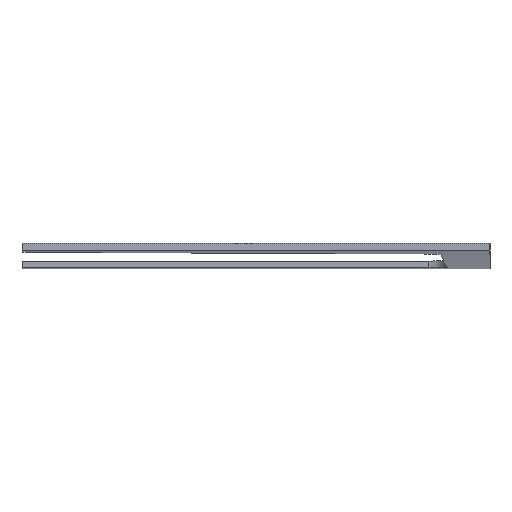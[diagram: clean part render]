
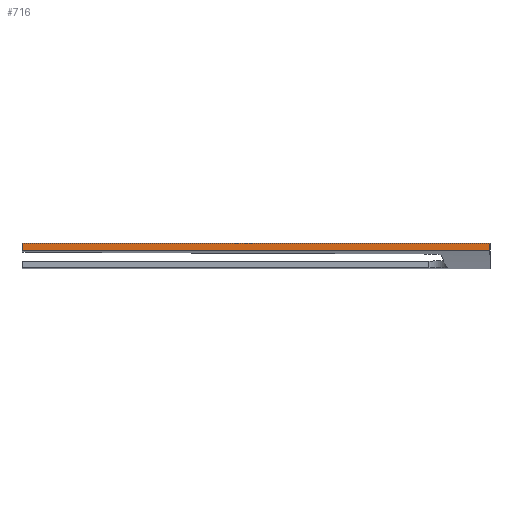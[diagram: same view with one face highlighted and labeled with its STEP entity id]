
A CAD part, top view. The second image highlights one B-rep face of the part: STEP entity #716.
In plain terms, the highlighted planar face has unit normal (0, 0, 1).
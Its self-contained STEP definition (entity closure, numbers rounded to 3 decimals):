
#21 = EDGE_CURVE('',#22,#24,#26,.T.);
#22 = VERTEX_POINT('',#23);
#23 = CARTESIAN_POINT('',(310.,-178.456,418.));
#24 = VERTEX_POINT('',#25);
#25 = CARTESIAN_POINT('',(110.,-178.456,418.));
#26 = SURFACE_CURVE('',#27,(#33,#79),.PCURVE_S1.);
#27 = B_SPLINE_CURVE_WITH_KNOTS('',4,(#28,#29,#30,#31,#32),
  .UNSPECIFIED.,.F.,.F.,(5,5),(0.,1.),.PIECEWISE_BEZIER_KNOTS.);
#28 = CARTESIAN_POINT('',(310.705,-178.456,418.));
#29 = CARTESIAN_POINT('',(249.638,-178.456,418.));
#30 = CARTESIAN_POINT('',(188.57,-178.456,418.));
#31 = CARTESIAN_POINT('',(127.503,-178.456,418.));
#32 = CARTESIAN_POINT('',(66.436,-178.456,418.));
#33 = PCURVE('',#34,#71);
#34 = B_SPLINE_SURFACE_WITH_KNOTS('',8,3,(
    (#35,#36,#37,#38)
    ,(#39,#40,#41,#42)
    ,(#43,#44,#45,#46)
    ,(#47,#48,#49,#50)
    ,(#51,#52,#53,#54)
    ,(#55,#56,#57,#58)
    ,(#59,#60,#61,#62)
    ,(#63,#64,#65,#66)
    ,(#67,#68,#69,#70
    )),.UNSPECIFIED.,.F.,.F.,.F.,(9,9),(4,4),(0.,1.),(0.,1.),
  .PIECEWISE_BEZIER_KNOTS.);
#35 = CARTESIAN_POINT('',(39.,-188.,100.));
#36 = CARTESIAN_POINT('',(19.839,-186.258,
    217.091));
#37 = CARTESIAN_POINT('',(37.234,-185.546,336.546
    ));
#38 = CARTESIAN_POINT('',(77.,-176.,450.));
#39 = CARTESIAN_POINT('',(75.25,-188.,100.));
#40 = CARTESIAN_POINT('',(58.988,-186.258,
    217.091));
#41 = CARTESIAN_POINT('',(73.424,-185.546,
    336.546));
#42 = CARTESIAN_POINT('',(105.5,-176.,450.));
#43 = CARTESIAN_POINT('',(111.5,-188.,100.));
#44 = CARTESIAN_POINT('',(98.138,-186.258,
    217.091));
#45 = CARTESIAN_POINT('',(109.614,-185.546,
    336.546));
#46 = CARTESIAN_POINT('',(134.,-176.,450.));
#47 = CARTESIAN_POINT('',(147.75,-188.,100.));
#48 = CARTESIAN_POINT('',(137.287,-186.258,
    217.091));
#49 = CARTESIAN_POINT('',(145.804,-185.546,
    336.546));
#50 = CARTESIAN_POINT('',(162.5,-176.,450.));
#51 = CARTESIAN_POINT('',(184.,-188.,100.));
#52 = CARTESIAN_POINT('',(176.437,-186.258,
    217.091));
#53 = CARTESIAN_POINT('',(181.994,-185.546,
    336.546));
#54 = CARTESIAN_POINT('',(191.,-176.,450.));
#55 = CARTESIAN_POINT('',(220.25,-188.,100.));
#56 = CARTESIAN_POINT('',(215.586,-186.258,
    217.091));
#57 = CARTESIAN_POINT('',(218.185,-185.546,336.546
    ));
#58 = CARTESIAN_POINT('',(219.5,-176.,450.));
#59 = CARTESIAN_POINT('',(256.5,-188.,100.));
#60 = CARTESIAN_POINT('',(254.736,-186.258,
    217.091));
#61 = CARTESIAN_POINT('',(254.375,-185.546,
    336.546));
#62 = CARTESIAN_POINT('',(248.,-176.,450.));
#63 = CARTESIAN_POINT('',(292.75,-188.,100.));
#64 = CARTESIAN_POINT('',(293.885,-186.258,
    217.091));
#65 = CARTESIAN_POINT('',(290.565,-185.546,
    336.546));
#66 = CARTESIAN_POINT('',(276.5,-176.,450.));
#67 = CARTESIAN_POINT('',(329.,-188.,100.));
#68 = CARTESIAN_POINT('',(333.035,-186.258,
    217.091));
#69 = CARTESIAN_POINT('',(326.755,-185.546,
    336.546));
#70 = CARTESIAN_POINT('',(305.,-176.,450.));
#71 = DEFINITIONAL_REPRESENTATION('',(#72),#78);
#72 = B_SPLINE_CURVE_WITH_KNOTS('',4,(#73,#74,#75,#76,#77),
  .UNSPECIFIED.,.F.,.F.,(5,5),(0.,1.),.PIECEWISE_BEZIER_KNOTS.);
#73 = CARTESIAN_POINT('',(1.,0.906));
#74 = CARTESIAN_POINT('',(0.75,0.906));
#75 = CARTESIAN_POINT('',(0.5,0.906));
#76 = CARTESIAN_POINT('',(0.25,0.906));
#77 = CARTESIAN_POINT('',(0.,0.906));
#78 = ( GEOMETRIC_REPRESENTATION_CONTEXT(2) 
PARAMETRIC_REPRESENTATION_CONTEXT() REPRESENTATION_CONTEXT('2D SPACE',''
  ) );
#79 = PCURVE('',#80,#85);
#80 = PLANE('',#81);
#81 = AXIS2_PLACEMENT_3D('',#82,#83,#84);
#82 = CARTESIAN_POINT('',(-100.,-250.,418.));
#83 = DIRECTION('',(0.,0.,1.));
#84 = DIRECTION('',(1.,0.,-0.));
#85 = DEFINITIONAL_REPRESENTATION('',(#86),#92);
#86 = B_SPLINE_CURVE_WITH_KNOTS('',4,(#87,#88,#89,#90,#91),
  .UNSPECIFIED.,.F.,.F.,(5,5),(0.,1.),.PIECEWISE_BEZIER_KNOTS.);
#87 = CARTESIAN_POINT('',(410.705,71.544));
#88 = CARTESIAN_POINT('',(349.638,71.544));
#89 = CARTESIAN_POINT('',(288.57,71.544));
#90 = CARTESIAN_POINT('',(227.503,71.544));
#91 = CARTESIAN_POINT('',(166.436,71.544));
#92 = ( GEOMETRIC_REPRESENTATION_CONTEXT(2) 
PARAMETRIC_REPRESENTATION_CONTEXT() REPRESENTATION_CONTEXT('2D SPACE',''
  ) );
#138 = PLANE('',#139);
#139 = AXIS2_PLACEMENT_3D('',#140,#141,#142);
#140 = CARTESIAN_POINT('',(110.,-250.,235.));
#141 = DIRECTION('',(1.,0.,-0.));
#142 = DIRECTION('',(0.,0.,1.));
#666 = PLANE('',#667);
#667 = AXIS2_PLACEMENT_3D('',#668,#669,#670);
#668 = CARTESIAN_POINT('',(310.,-250.,0.));
#669 = DIRECTION('',(1.,0.,-0.));
#670 = DIRECTION('',(0.,0.,1.));
#716 = ADVANCED_FACE('',(#717),#80,.T.);
#717 = FACE_BOUND('',#718,.T.);
#718 = EDGE_LOOP('',(#719,#720,#743,#809));
#719 = ORIENTED_EDGE('',*,*,#21,.F.);
#720 = ORIENTED_EDGE('',*,*,#721,.T.);
#721 = EDGE_CURVE('',#22,#722,#724,.T.);
#722 = VERTEX_POINT('',#723);
#723 = CARTESIAN_POINT('',(310.,-175.414,418.));
#724 = SURFACE_CURVE('',#725,(#729,#736),.PCURVE_S1.);
#725 = LINE('',#726,#727);
#726 = CARTESIAN_POINT('',(310.,-250.,418.));
#727 = VECTOR('',#728,1.);
#728 = DIRECTION('',(-0.,1.,0.));
#729 = PCURVE('',#80,#730);
#730 = DEFINITIONAL_REPRESENTATION('',(#731),#735);
#731 = LINE('',#732,#733);
#732 = CARTESIAN_POINT('',(410.,0.));
#733 = VECTOR('',#734,1.);
#734 = DIRECTION('',(0.,1.));
#735 = ( GEOMETRIC_REPRESENTATION_CONTEXT(2) 
PARAMETRIC_REPRESENTATION_CONTEXT() REPRESENTATION_CONTEXT('2D SPACE',''
  ) );
#736 = PCURVE('',#666,#737);
#737 = DEFINITIONAL_REPRESENTATION('',(#738),#742);
#738 = LINE('',#739,#740);
#739 = CARTESIAN_POINT('',(418.,0.));
#740 = VECTOR('',#741,1.);
#741 = DIRECTION('',(0.,-1.));
#742 = ( GEOMETRIC_REPRESENTATION_CONTEXT(2) 
PARAMETRIC_REPRESENTATION_CONTEXT() REPRESENTATION_CONTEXT('2D SPACE',''
  ) );
#743 = ORIENTED_EDGE('',*,*,#744,.T.);
#744 = EDGE_CURVE('',#722,#745,#747,.T.);
#745 = VERTEX_POINT('',#746);
#746 = CARTESIAN_POINT('',(110.,-175.414,418.));
#747 = SURFACE_CURVE('',#748,(#754,#763),.PCURVE_S1.);
#748 = B_SPLINE_CURVE_WITH_KNOTS('',4,(#749,#750,#751,#752,#753),
  .UNSPECIFIED.,.F.,.F.,(5,5),(0.,1.),.PIECEWISE_BEZIER_KNOTS.);
#749 = CARTESIAN_POINT('',(310.609,-175.414,418.));
#750 = CARTESIAN_POINT('',(249.609,-175.414,418.));
#751 = CARTESIAN_POINT('',(188.61,-175.414,418.));
#752 = CARTESIAN_POINT('',(127.61,-175.414,418.));
#753 = CARTESIAN_POINT('',(66.611,-175.414,418.));
#754 = PCURVE('',#80,#755);
#755 = DEFINITIONAL_REPRESENTATION('',(#756),#762);
#756 = B_SPLINE_CURVE_WITH_KNOTS('',4,(#757,#758,#759,#760,#761),
  .UNSPECIFIED.,.F.,.F.,(5,5),(0.,1.),.PIECEWISE_BEZIER_KNOTS.);
#757 = CARTESIAN_POINT('',(410.609,74.586));
#758 = CARTESIAN_POINT('',(349.609,74.586));
#759 = CARTESIAN_POINT('',(288.61,74.586));
#760 = CARTESIAN_POINT('',(227.61,74.586));
#761 = CARTESIAN_POINT('',(166.611,74.586));
#762 = ( GEOMETRIC_REPRESENTATION_CONTEXT(2) 
PARAMETRIC_REPRESENTATION_CONTEXT() REPRESENTATION_CONTEXT('2D SPACE',''
  ) );
#763 = PCURVE('',#764,#801);
#764 = B_SPLINE_SURFACE_WITH_KNOTS('',8,3,(
    (#765,#766,#767,#768)
    ,(#769,#770,#771,#772)
    ,(#773,#774,#775,#776)
    ,(#777,#778,#779,#780)
    ,(#781,#782,#783,#784)
    ,(#785,#786,#787,#788)
    ,(#789,#790,#791,#792)
    ,(#793,#794,#795,#796)
    ,(#797,#798,#799,#800
    )),.UNSPECIFIED.,.F.,.F.,.F.,(9,9),(4,4),(0.,1.),(0.,1.),
  .PIECEWISE_BEZIER_KNOTS.);
#765 = CARTESIAN_POINT('',(39.,-185.,97.));
#766 = CARTESIAN_POINT('',(21.617,-182.923,213.778
    ));
#767 = CARTESIAN_POINT('',(33.714,-183.321,
    334.206));
#768 = CARTESIAN_POINT('',(77.,-173.,447.));
#769 = CARTESIAN_POINT('',(75.25,-185.,97.));
#770 = CARTESIAN_POINT('',(60.435,-182.923,
    213.778));
#771 = CARTESIAN_POINT('',(70.576,-183.321,
    334.206));
#772 = CARTESIAN_POINT('',(105.5,-173.,447.));
#773 = CARTESIAN_POINT('',(111.5,-185.,97.));
#774 = CARTESIAN_POINT('',(99.253,-182.923,
    213.778));
#775 = CARTESIAN_POINT('',(107.439,-183.321,
    334.206));
#776 = CARTESIAN_POINT('',(134.,-173.,447.));
#777 = CARTESIAN_POINT('',(147.75,-185.,97.));
#778 = CARTESIAN_POINT('',(138.071,-182.923,
    213.778));
#779 = CARTESIAN_POINT('',(144.302,-183.321,
    334.206));
#780 = CARTESIAN_POINT('',(162.5,-173.,447.));
#781 = CARTESIAN_POINT('',(184.,-185.,97.));
#782 = CARTESIAN_POINT('',(176.889,-182.923,
    213.778));
#783 = CARTESIAN_POINT('',(181.164,-183.321,
    334.206));
#784 = CARTESIAN_POINT('',(191.,-173.,447.));
#785 = CARTESIAN_POINT('',(220.25,-185.,97.));
#786 = CARTESIAN_POINT('',(215.707,-182.923,
    213.778));
#787 = CARTESIAN_POINT('',(218.027,-183.321,
    334.206));
#788 = CARTESIAN_POINT('',(219.5,-173.,447.));
#789 = CARTESIAN_POINT('',(256.5,-185.,97.));
#790 = CARTESIAN_POINT('',(254.525,-182.923,
    213.778));
#791 = CARTESIAN_POINT('',(254.889,-183.321,
    334.206));
#792 = CARTESIAN_POINT('',(248.,-173.,447.));
#793 = CARTESIAN_POINT('',(292.75,-185.,97.));
#794 = CARTESIAN_POINT('',(293.343,-182.923,
    213.778));
#795 = CARTESIAN_POINT('',(291.752,-183.321,
    334.206));
#796 = CARTESIAN_POINT('',(276.5,-173.,447.));
#797 = CARTESIAN_POINT('',(329.,-185.,97.));
#798 = CARTESIAN_POINT('',(332.161,-182.923,
    213.778));
#799 = CARTESIAN_POINT('',(328.615,-183.321,
    334.206));
#800 = CARTESIAN_POINT('',(305.,-173.,447.));
#801 = DEFINITIONAL_REPRESENTATION('',(#802),#808);
#802 = B_SPLINE_CURVE_WITH_KNOTS('',4,(#803,#804,#805,#806,#807),
  .UNSPECIFIED.,.F.,.F.,(5,5),(0.,1.),.PIECEWISE_BEZIER_KNOTS.);
#803 = CARTESIAN_POINT('',(1.,0.915));
#804 = CARTESIAN_POINT('',(0.75,0.915));
#805 = CARTESIAN_POINT('',(0.5,0.915));
#806 = CARTESIAN_POINT('',(0.25,0.915));
#807 = CARTESIAN_POINT('',(0.,0.915));
#808 = ( GEOMETRIC_REPRESENTATION_CONTEXT(2) 
PARAMETRIC_REPRESENTATION_CONTEXT() REPRESENTATION_CONTEXT('2D SPACE',''
  ) );
#809 = ORIENTED_EDGE('',*,*,#810,.F.);
#810 = EDGE_CURVE('',#24,#745,#811,.T.);
#811 = SURFACE_CURVE('',#812,(#816,#823),.PCURVE_S1.);
#812 = LINE('',#813,#814);
#813 = CARTESIAN_POINT('',(110.,-250.,418.));
#814 = VECTOR('',#815,1.);
#815 = DIRECTION('',(-0.,1.,0.));
#816 = PCURVE('',#80,#817);
#817 = DEFINITIONAL_REPRESENTATION('',(#818),#822);
#818 = LINE('',#819,#820);
#819 = CARTESIAN_POINT('',(210.,0.));
#820 = VECTOR('',#821,1.);
#821 = DIRECTION('',(0.,1.));
#822 = ( GEOMETRIC_REPRESENTATION_CONTEXT(2) 
PARAMETRIC_REPRESENTATION_CONTEXT() REPRESENTATION_CONTEXT('2D SPACE',''
  ) );
#823 = PCURVE('',#138,#824);
#824 = DEFINITIONAL_REPRESENTATION('',(#825),#829);
#825 = LINE('',#826,#827);
#826 = CARTESIAN_POINT('',(183.,0.));
#827 = VECTOR('',#828,1.);
#828 = DIRECTION('',(0.,-1.));
#829 = ( GEOMETRIC_REPRESENTATION_CONTEXT(2) 
PARAMETRIC_REPRESENTATION_CONTEXT() REPRESENTATION_CONTEXT('2D SPACE',''
  ) );
